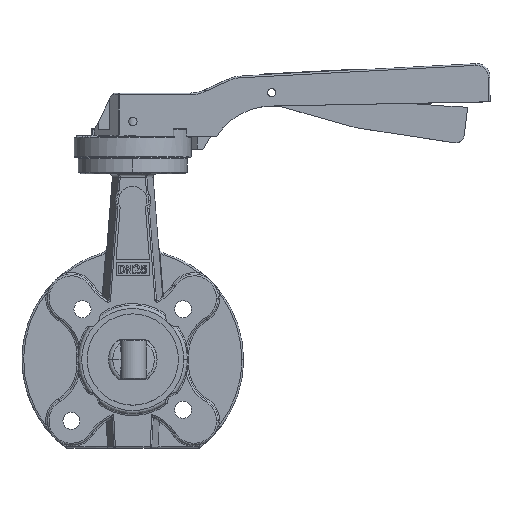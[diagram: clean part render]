
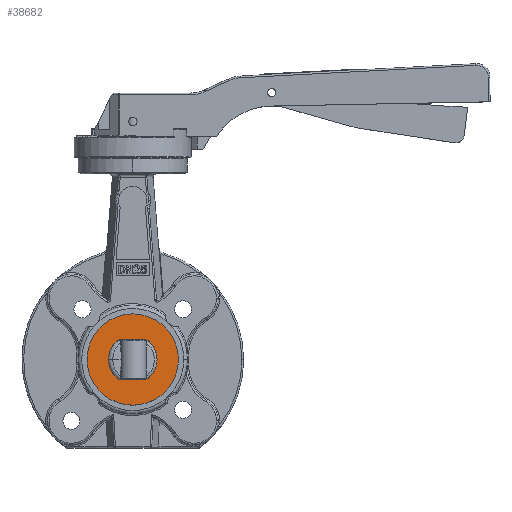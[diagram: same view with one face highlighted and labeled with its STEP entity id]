
A CAD part, top view. The second image highlights one B-rep face of the part: STEP entity #38682.
In plain terms, the highlighted planar face has unit normal (0, 0, 1).
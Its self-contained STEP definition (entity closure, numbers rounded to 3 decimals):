
#115 = AXIS2_PLACEMENT_3D ( 'NONE', #50754, #45188, #40710 ) ;
#846 = CARTESIAN_POINT ( 'NONE',  ( -27.3, 0., 18.6 ) ) ;
#1835 = VECTOR ( 'NONE', #25094, 1000. ) ;
#2565 = DIRECTION ( 'NONE',  ( 0., 0., -1. ) ) ;
#3075 = CIRCLE ( 'NONE', #21598, 14.5 ) ;
#3355 = EDGE_CURVE ( 'NONE', #27128, #38344, #53340, .T. ) ;
#6191 = ORIENTED_EDGE ( 'NONE', *, *, #17941, .F. ) ;
#6378 = FACE_OUTER_BOUND ( 'NONE', #31831, .T. ) ;
#6380 = VECTOR ( 'NONE', #21267, 1000. ) ;
#6514 = DIRECTION ( 'NONE',  ( 1., 0., 0. ) ) ;
#10843 = CARTESIAN_POINT ( 'NONE',  ( -7.914, 12.15, 18.6 ) ) ;
#11068 = DIRECTION ( 'NONE',  ( 0., 0., -1. ) ) ;
#11414 = LINE ( 'NONE', #39306, #1835 ) ;
#11917 = DIRECTION ( 'NONE',  ( 0., 0., -1. ) ) ;
#14085 = ORIENTED_EDGE ( 'NONE', *, *, #40472, .T. ) ;
#15457 = DIRECTION ( 'NONE',  ( -1., 0., 0. ) ) ;
#16397 = CARTESIAN_POINT ( 'NONE',  ( -7.914, -12.15, 18.6 ) ) ;
#16649 = CARTESIAN_POINT ( 'NONE',  ( 0., 0., 18.6 ) ) ;
#17941 = EDGE_CURVE ( 'NONE', #39370, #52080, #19841, .T. ) ;
#17998 = DIRECTION ( 'NONE',  ( 1., 0., 0. ) ) ;
#18444 = CARTESIAN_POINT ( 'NONE',  ( 27.3, 0., 18.6 ) ) ;
#19004 = CIRCLE ( 'NONE', #22168, 27.3 ) ;
#19813 = CARTESIAN_POINT ( 'NONE',  ( 0., 0., 18.6 ) ) ;
#19841 = CIRCLE ( 'NONE', #35345, 27.3 ) ;
#20671 = CARTESIAN_POINT ( 'NONE',  ( 0., -12.15, 18.6 ) ) ;
#21267 = DIRECTION ( 'NONE',  ( -1., 0., 0. ) ) ;
#21598 = AXIS2_PLACEMENT_3D ( 'NONE', #39250, #11068, #6514 ) ;
#22168 = AXIS2_PLACEMENT_3D ( 'NONE', #16649, #36010, #40310 ) ;
#22620 = FACE_BOUND ( 'NONE', #54105, .T. ) ;
#24433 = VERTEX_POINT ( 'NONE', #28725 ) ;
#25094 = DIRECTION ( 'NONE',  ( 1., 0., 0. ) ) ;
#26090 = CARTESIAN_POINT ( 'NONE',  ( 0., 0., 18.6 ) ) ;
#27128 = VERTEX_POINT ( 'NONE', #16397 ) ;
#28725 = CARTESIAN_POINT ( 'NONE',  ( 7.914, -12.15, 18.6 ) ) ;
#31339 = CARTESIAN_POINT ( 'NONE',  ( 14.5, 0., 18.6 ) ) ;
#31831 = EDGE_LOOP ( 'NONE', ( #53017, #6191 ) ) ;
#31922 = AXIS2_PLACEMENT_3D ( 'NONE', #26090, #2565, #17998 ) ;
#31976 = ORIENTED_EDGE ( 'NONE', *, *, #51275, .T. ) ;
#32993 = PLANE ( 'NONE',  #56399 ) ;
#35345 = AXIS2_PLACEMENT_3D ( 'NONE', #58718, #11917, #35375 ) ;
#35375 = DIRECTION ( 'NONE',  ( 1., 0., 0. ) ) ;
#36010 = DIRECTION ( 'NONE',  ( 0., 0., -1. ) ) ;
#37522 = EDGE_CURVE ( 'NONE', #52080, #39370, #19004, .T. ) ;
#38344 = VERTEX_POINT ( 'NONE', #10843 ) ;
#38578 = ORIENTED_EDGE ( 'NONE', *, *, #56879, .T. ) ;
#38682 = ADVANCED_FACE ( 'NONE', ( #6378, #22620 ), #32993, .T. ) ;
#39250 = CARTESIAN_POINT ( 'NONE',  ( 0., 0., 18.6 ) ) ;
#39306 = CARTESIAN_POINT ( 'NONE',  ( 0., 12.15, 18.6 ) ) ;
#39370 = VERTEX_POINT ( 'NONE', #846 ) ;
#40310 = DIRECTION ( 'NONE',  ( 1., 0., 0. ) ) ;
#40472 = EDGE_CURVE ( 'NONE', #38344, #43360, #11414, .T. ) ;
#40710 = DIRECTION ( 'NONE',  ( 1., 0., 0. ) ) ;
#43360 = VERTEX_POINT ( 'NONE', #47303 ) ;
#43821 = ORIENTED_EDGE ( 'NONE', *, *, #3355, .T. ) ;
#43901 = LINE ( 'NONE', #20671, #6380 ) ;
#45188 = DIRECTION ( 'NONE',  ( 0., 0., -1. ) ) ;
#46225 = VERTEX_POINT ( 'NONE', #31339 ) ;
#47303 = CARTESIAN_POINT ( 'NONE',  ( 7.914, 12.15, 18.6 ) ) ;
#47543 = DIRECTION ( 'NONE',  ( 0., 0., 1. ) ) ;
#50754 = CARTESIAN_POINT ( 'NONE',  ( 0., 0., 18.6 ) ) ;
#51275 = EDGE_CURVE ( 'NONE', #24433, #27128, #43901, .T. ) ;
#52080 = VERTEX_POINT ( 'NONE', #18444 ) ;
#53017 = ORIENTED_EDGE ( 'NONE', *, *, #37522, .F. ) ;
#53340 = CIRCLE ( 'NONE', #115, 14.5 ) ;
#53581 = ORIENTED_EDGE ( 'NONE', *, *, #56685, .T. ) ;
#53765 = CIRCLE ( 'NONE', #31922, 14.5 ) ;
#54105 = EDGE_LOOP ( 'NONE', ( #53581, #38578, #31976, #43821, #14085 ) ) ;
#56399 = AXIS2_PLACEMENT_3D ( 'NONE', #19813, #47543, #15457 ) ;
#56685 = EDGE_CURVE ( 'NONE', #43360, #46225, #3075, .T. ) ;
#56879 = EDGE_CURVE ( 'NONE', #46225, #24433, #53765, .T. ) ;
#58718 = CARTESIAN_POINT ( 'NONE',  ( 0., 0., 18.6 ) ) ;
